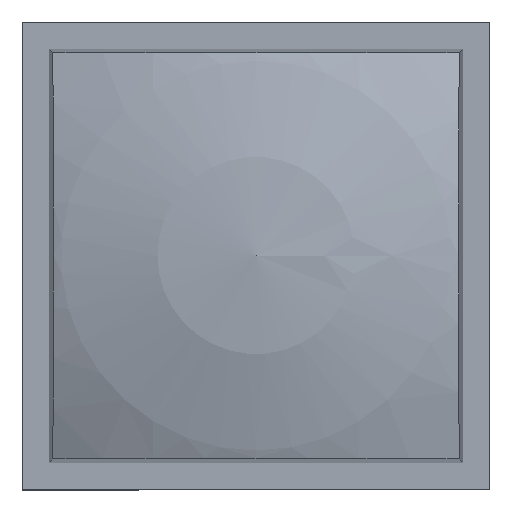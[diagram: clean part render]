
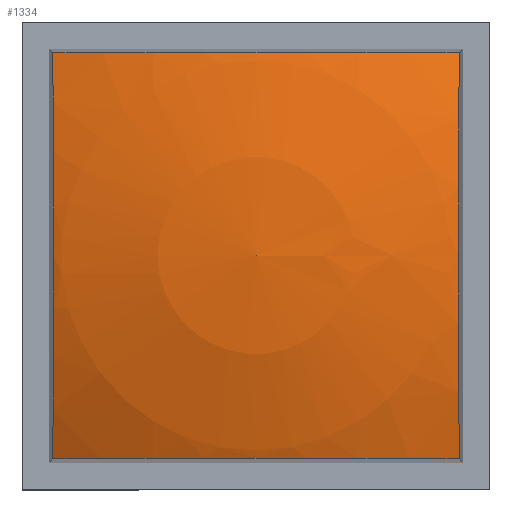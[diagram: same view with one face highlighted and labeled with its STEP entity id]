
A CAD part, top view. The second image highlights one B-rep face of the part: STEP entity #1334.
In plain terms, the highlighted spherical face has radius 17.5 mm.
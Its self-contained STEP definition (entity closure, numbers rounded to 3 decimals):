
#1183=CARTESIAN_POINT('',(-5.236,5.236,13.302));
#1184=VERTEX_POINT('',#1183);
#1191=CARTESIAN_POINT('',(5.236,5.236,13.302));
#1192=VERTEX_POINT('',#1191);
#1193=CARTESIAN_POINT('',(0.,5.511,-2.458));
#1194=DIRECTION('',(0.,1.,0.017));
#1195=DIRECTION('',(0.,0.017,-1.));
#1196=AXIS2_PLACEMENT_3D('',#1193,#1194,#1195);
#1197=CIRCLE('',#1196,16.609);
#1198=EDGE_CURVE('',#1184,#1192,#1197,.T.);
#1301=CARTESIAN_POINT('',(0.,0.,-2.554));
#1302=DIRECTION('',(0.0,0.0,1.0));
#1303=DIRECTION('',(1.0,0.0,0.0));
#1304=AXIS2_PLACEMENT_3D('',#1301,#1302,#1303);
#1305=SPHERICAL_SURFACE('',#1304,17.5);
#1306=CARTESIAN_POINT('',(5.236,-5.236,13.302));
#1307=VERTEX_POINT('',#1306);
#1308=CARTESIAN_POINT('',(-5.236,-5.236,13.302));
#1309=VERTEX_POINT('',#1308);
#1310=CARTESIAN_POINT('',(0.,-5.511,-2.458));
#1311=DIRECTION('',(0.,-1.,0.017));
#1312=DIRECTION('',(0.,0.017,1.));
#1313=AXIS2_PLACEMENT_3D('',#1310,#1311,#1312);
#1314=CIRCLE('',#1313,16.609);
#1315=EDGE_CURVE('',#1307,#1309,#1314,.T.);
#1316=ORIENTED_EDGE('',*,*,#1315,.F.);
#1317=CARTESIAN_POINT('',(5.511,0.,-2.458));
#1318=DIRECTION('',(1.,0.,0.017));
#1319=DIRECTION('',(-0.017,0.,1.));
#1320=AXIS2_PLACEMENT_3D('',#1317,#1318,#1319);
#1321=CIRCLE('',#1320,16.609);
#1322=EDGE_CURVE('',#1192,#1307,#1321,.T.);
#1323=ORIENTED_EDGE('',*,*,#1322,.F.);
#1324=ORIENTED_EDGE('',*,*,#1198,.F.);
#1325=CARTESIAN_POINT('',(-5.511,0.,-2.458));
#1326=DIRECTION('',(-1.,0.,0.017));
#1327=DIRECTION('',(-0.017,0.,-1.));
#1328=AXIS2_PLACEMENT_3D('',#1325,#1326,#1327);
#1329=CIRCLE('',#1328,16.609);
#1330=EDGE_CURVE('',#1309,#1184,#1329,.T.);
#1331=ORIENTED_EDGE('',*,*,#1330,.F.);
#1332=EDGE_LOOP('',(#1316,#1323,#1324,#1331));
#1333=FACE_OUTER_BOUND('',#1332,.T.);
#1334=ADVANCED_FACE('',(#1333),#1305,.T.);
